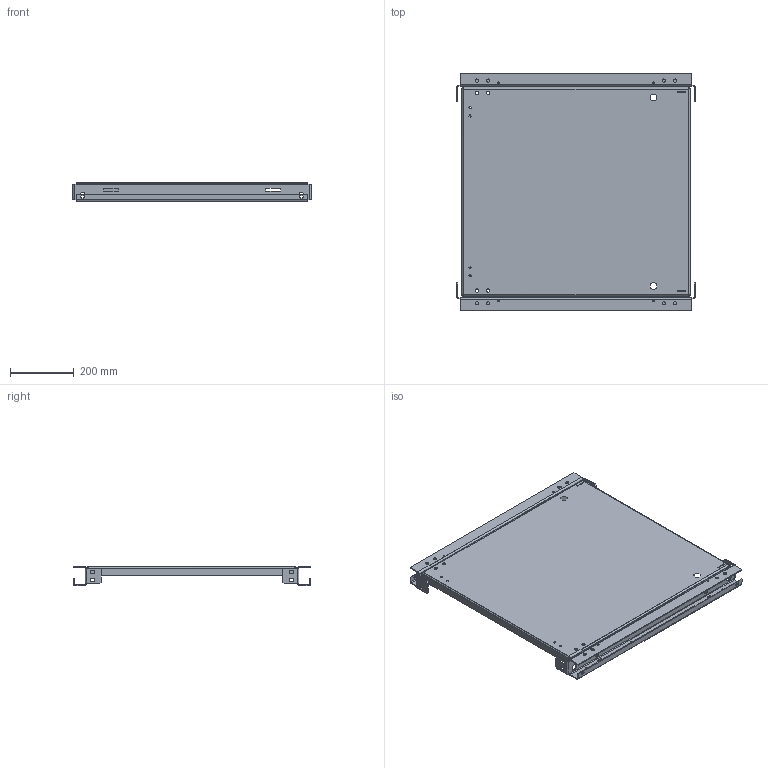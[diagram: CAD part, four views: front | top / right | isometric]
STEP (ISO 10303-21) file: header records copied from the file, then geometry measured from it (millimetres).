
FILE_DESCRIPTION (( 'STEP AP203' ), '1' );
FILE_NAME ('p2pso88.STEP', '2016-06-09T20:37:34', ( '' ), ( '' ), 'SwSTEP 2.0', 'SolidWorks 2014', '' );
FILE_SCHEMA (( 'CONFIG_CONTROL_DESIGN' ));
Length unit declared in the file: millimetre
Products named in the file (3): 89138339; 89138116; p2pso88
Assembly tree (3 placements, depth 2):
  p2pso88
    89138339
    89138116  x2
Bounding box: 747.29 x 745.09 x 60.15 mm (x, y, z)
Volume: 2019004 mm3; surface area: 1526037.3 mm2
Topology: 3 solids, 3 shells, 346 faces, 938 edges, 604 vertices
Faces by surface type: plane 206, cylinder 132, bspline 8
Entity records: 8251 total; most frequent: CARTESIAN_POINT 1812, ORIENTED_EDGE 1260, DIRECTION 1238, EDGE_CURVE 630, VECTOR 458, LINE 458, VERTEX_POINT 404, AXIS2_PLACEMENT_3D 390
